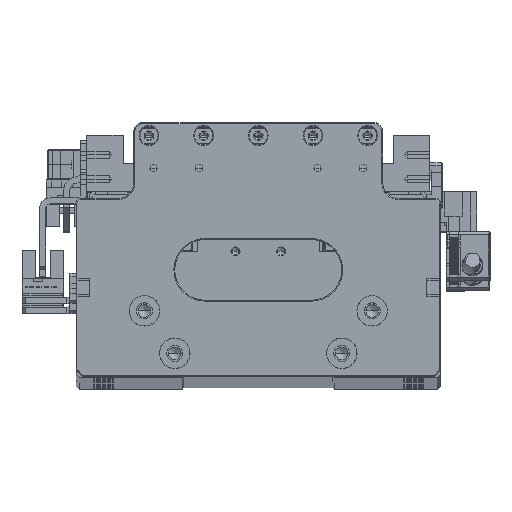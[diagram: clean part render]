
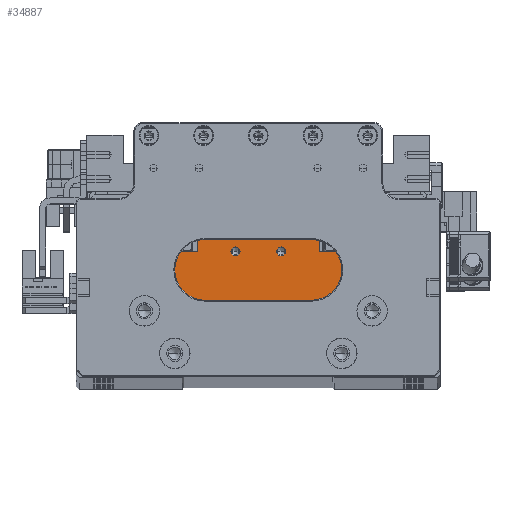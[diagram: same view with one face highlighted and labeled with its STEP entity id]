
A CAD part, top view. The second image highlights one B-rep face of the part: STEP entity #34887.
In plain terms, the highlighted planar face has unit normal (0, 0, 1).
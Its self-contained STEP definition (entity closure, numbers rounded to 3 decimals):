
#1400 = LINE ( 'NONE', #131904, #113804 ) ;
#4353 = DIRECTION ( 'NONE',  ( 0., 1., 0. ) ) ;
#4664 = EDGE_CURVE ( 'NONE', #95683, #56357, #54690, .T. ) ;
#5832 = VECTOR ( 'NONE', #104199, 1000. ) ;
#11378 = CIRCLE ( 'NONE', #26046, 1.525 ) ;
#13535 = ORIENTED_EDGE ( 'NONE', *, *, #87878, .F. ) ;
#14280 = CARTESIAN_POINT ( 'NONE',  ( -9.194, -12.996, 411.036 ) ) ;
#16854 = DIRECTION ( 'NONE',  ( 0., 0., 1. ) ) ;
#18118 = VERTEX_POINT ( 'NONE', #135545 ) ;
#18146 = DIRECTION ( 'NONE',  ( 0., 1., 0. ) ) ;
#20010 = DIRECTION ( 'NONE',  ( 1., 0., 0. ) ) ;
#20671 = VECTOR ( 'NONE', #101407, 1000. ) ;
#21553 = VERTEX_POINT ( 'NONE', #38813 ) ;
#23345 = ORIENTED_EDGE ( 'NONE', *, *, #73194, .F. ) ;
#24786 = VECTOR ( 'NONE', #41707, 1000. ) ;
#24940 = CIRCLE ( 'NONE', #119246, 1.525 ) ;
#26046 = AXIS2_PLACEMENT_3D ( 'NONE', #84156, #16854, #95445 ) ;
#29539 = DIRECTION ( 'NONE',  ( 0., 0., -1. ) ) ;
#32689 = DIRECTION ( 'NONE',  ( 0., -1., 0. ) ) ;
#34069 = CARTESIAN_POINT ( 'NONE',  ( -9.194, 10.204, 411.036 ) ) ;
#34887 = ADVANCED_FACE ( 'NONE', ( #129540, #133038, #99732 ), #141507, .F. ) ;
#35124 = DIRECTION ( 'NONE',  ( 0., 0., 1. ) ) ;
#35575 = EDGE_CURVE ( 'NONE', #56357, #43332, #1400, .T. ) ;
#35691 = CIRCLE ( 'NONE', #55722, 1.525 ) ;
#36736 = CARTESIAN_POINT ( 'NONE',  ( -21.694, 6.204, 411.036 ) ) ;
#38697 = VECTOR ( 'NONE', #4353, 1000. ) ;
#38813 = CARTESIAN_POINT ( 'NONE',  ( -21.694, 10.204, 411.036 ) ) ;
#40911 = CARTESIAN_POINT ( 'NONE',  ( 28.206, 6.204, 411.036 ) ) ;
#41707 = DIRECTION ( 'NONE',  ( 1., 0., 0. ) ) ;
#43332 = VERTEX_POINT ( 'NONE', #36736 ) ;
#43983 = CARTESIAN_POINT ( 'NONE',  ( 18.306, -1.296, 411.036 ) ) ;
#45142 = ORIENTED_EDGE ( 'NONE', *, *, #55936, .T. ) ;
#45645 = CARTESIAN_POINT ( 'NONE',  ( 28.206, -1.296, 411.036 ) ) ;
#46205 = EDGE_CURVE ( 'NONE', #116494, #50901, #68444, .T. ) ;
#50901 = VERTEX_POINT ( 'NONE', #56883 ) ;
#54671 = LINE ( 'NONE', #43983, #140768 ) ;
#54690 = LINE ( 'NONE', #129574, #140790 ) ;
#55395 = CIRCLE ( 'NONE', #86218, 1.525 ) ;
#55433 = CARTESIAN_POINT ( 'NONE',  ( -31.594, 6.204, 411.036 ) ) ;
#55722 = AXIS2_PLACEMENT_3D ( 'NONE', #102457, #35124, #113724 ) ;
#55936 = EDGE_CURVE ( 'NONE', #95683, #50901, #65552, .T. ) ;
#56357 = VERTEX_POINT ( 'NONE', #55433 ) ;
#56883 = CARTESIAN_POINT ( 'NONE',  ( 28.206, -12.996, 411.036 ) ) ;
#61636 = CARTESIAN_POINT ( 'NONE',  ( 5.806, 6.304, 411.036 ) ) ;
#62945 = EDGE_CURVE ( 'NONE', #128695, #18118, #55395, .T. ) ;
#62965 = CARTESIAN_POINT ( 'NONE',  ( -9.194, -1.296, 411.036 ) ) ;
#63408 = CARTESIAN_POINT ( 'NONE',  ( -31.594, -12.996, 411.036 ) ) ;
#64324 = EDGE_CURVE ( 'NONE', #119310, #116494, #144277, .T. ) ;
#64382 = CARTESIAN_POINT ( 'NONE',  ( -9.194, 6.304, 411.036 ) ) ;
#64496 = EDGE_LOOP ( 'NONE', ( #13535, #97197 ) ) ;
#65552 = LINE ( 'NONE', #14280, #5832 ) ;
#67808 = DIRECTION ( 'NONE',  ( 0., -1., 0. ) ) ;
#67889 = ORIENTED_EDGE ( 'NONE', *, *, #118147, .F. ) ;
#68444 = LINE ( 'NONE', #45645, #124598 ) ;
#72387 = CARTESIAN_POINT ( 'NONE',  ( 4.281, 6.304, 411.036 ) ) ;
#72980 = DIRECTION ( 'NONE',  ( 1., 0., 0. ) ) ;
#73194 = EDGE_CURVE ( 'NONE', #87479, #119310, #54671, .T. ) ;
#75700 = DIRECTION ( 'NONE',  ( 1., 0., 0. ) ) ;
#76078 = CARTESIAN_POINT ( 'NONE',  ( 18.306, 6.204, 411.036 ) ) ;
#79705 = EDGE_LOOP ( 'NONE', ( #67889, #133798 ) ) ;
#83535 = ORIENTED_EDGE ( 'NONE', *, *, #64324, .F. ) ;
#83855 = ORIENTED_EDGE ( 'NONE', *, *, #35575, .F. ) ;
#84156 = CARTESIAN_POINT ( 'NONE',  ( -9.194, 6.304, 411.036 ) ) ;
#86218 = AXIS2_PLACEMENT_3D ( 'NONE', #64382, #142910, #75700 ) ;
#87479 = VERTEX_POINT ( 'NONE', #131544 ) ;
#87878 = EDGE_CURVE ( 'NONE', #125279, #100862, #24940, .T. ) ;
#92495 = CARTESIAN_POINT ( 'NONE',  ( -10.719, 6.304, 411.036 ) ) ;
#95445 = DIRECTION ( 'NONE',  ( 1., 0., 0. ) ) ;
#95656 = ORIENTED_EDGE ( 'NONE', *, *, #46205, .F. ) ;
#95683 = VERTEX_POINT ( 'NONE', #63408 ) ;
#96889 = ORIENTED_EDGE ( 'NONE', *, *, #4664, .F. ) ;
#97197 = ORIENTED_EDGE ( 'NONE', *, *, #102597, .F. ) ;
#99732 = FACE_BOUND ( 'NONE', #79705, .T. ) ;
#100862 = VERTEX_POINT ( 'NONE', #72387 ) ;
#101258 = ORIENTED_EDGE ( 'NONE', *, *, #129390, .F. ) ;
#101407 = DIRECTION ( 'NONE',  ( 1., 0., 0. ) ) ;
#102457 = CARTESIAN_POINT ( 'NONE',  ( 5.806, 6.304, 411.036 ) ) ;
#102597 = EDGE_CURVE ( 'NONE', #100862, #125279, #35691, .T. ) ;
#104199 = DIRECTION ( 'NONE',  ( 1., 0., 0. ) ) ;
#108118 = DIRECTION ( 'NONE',  ( -1., 0., 0. ) ) ;
#108956 = CARTESIAN_POINT ( 'NONE',  ( -9.194, 6.204, 411.036 ) ) ;
#109903 = ORIENTED_EDGE ( 'NONE', *, *, #131391, .F. ) ;
#113724 = DIRECTION ( 'NONE',  ( 1., 0., 0. ) ) ;
#113804 = VECTOR ( 'NONE', #20010, 1000. ) ;
#114084 = AXIS2_PLACEMENT_3D ( 'NONE', #62965, #29539, #108118 ) ;
#116494 = VERTEX_POINT ( 'NONE', #40911 ) ;
#118147 = EDGE_CURVE ( 'NONE', #18118, #128695, #11378, .T. ) ;
#119246 = AXIS2_PLACEMENT_3D ( 'NONE', #61636, #140207, #72980 ) ;
#119310 = VERTEX_POINT ( 'NONE', #76078 ) ;
#124598 = VECTOR ( 'NONE', #67808, 1000. ) ;
#125279 = VERTEX_POINT ( 'NONE', #141897 ) ;
#128266 = LINE ( 'NONE', #138865, #38697 ) ;
#128695 = VERTEX_POINT ( 'NONE', #92495 ) ;
#129390 = EDGE_CURVE ( 'NONE', #43332, #21553, #128266, .T. ) ;
#129540 = FACE_OUTER_BOUND ( 'NONE', #142658, .T. ) ;
#129574 = CARTESIAN_POINT ( 'NONE',  ( -31.594, -1.296, 411.036 ) ) ;
#131391 = EDGE_CURVE ( 'NONE', #21553, #87479, #140156, .T. ) ;
#131544 = CARTESIAN_POINT ( 'NONE',  ( 18.306, 10.204, 411.036 ) ) ;
#131904 = CARTESIAN_POINT ( 'NONE',  ( -9.194, 6.204, 411.036 ) ) ;
#133038 = FACE_BOUND ( 'NONE', #64496, .T. ) ;
#133798 = ORIENTED_EDGE ( 'NONE', *, *, #62945, .F. ) ;
#135545 = CARTESIAN_POINT ( 'NONE',  ( -7.669, 6.304, 411.036 ) ) ;
#138865 = CARTESIAN_POINT ( 'NONE',  ( -21.694, -1.296, 411.036 ) ) ;
#140156 = LINE ( 'NONE', #34069, #20671 ) ;
#140207 = DIRECTION ( 'NONE',  ( 0., 0., 1. ) ) ;
#140768 = VECTOR ( 'NONE', #32689, 1000. ) ;
#140790 = VECTOR ( 'NONE', #18146, 1000. ) ;
#141507 = PLANE ( 'NONE',  #114084 ) ;
#141897 = CARTESIAN_POINT ( 'NONE',  ( 7.331, 6.304, 411.036 ) ) ;
#142658 = EDGE_LOOP ( 'NONE', ( #83855, #96889, #45142, #95656, #83535, #23345, #109903, #101258 ) ) ;
#142910 = DIRECTION ( 'NONE',  ( 0., 0., 1. ) ) ;
#144277 = LINE ( 'NONE', #108956, #24786 ) ;
